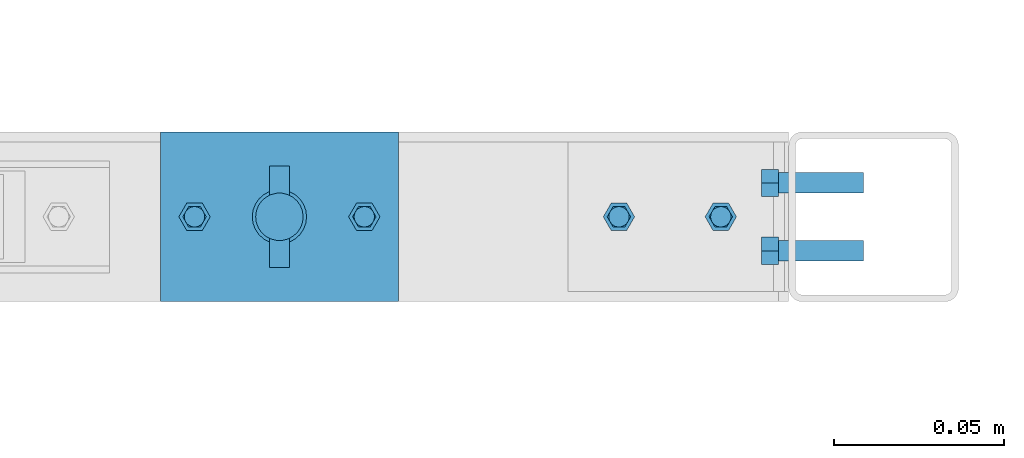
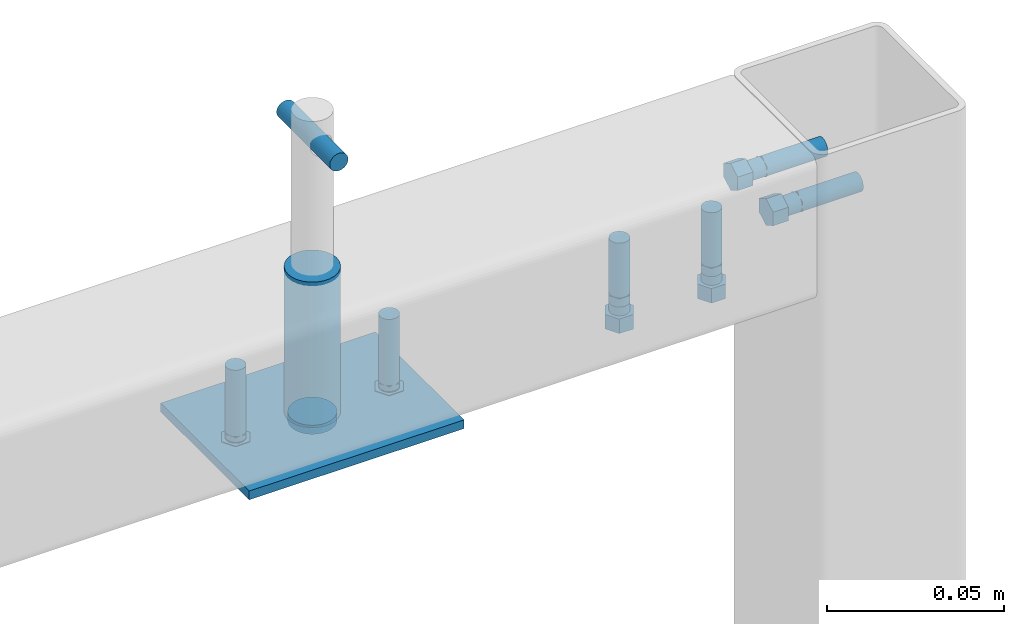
# One storey, part 60 of 91: 9 mechanical fasteners, 2 discrete accessories, 1 element without a shape of its own.
"""IFC2X3 building model written with IfcOpenShell, lengths in millimetres."""

from ifc_helpers import new_model, si_unit, frame, origin_with_axes, origin_2d_with_axis, place, context, subcontext, project, spatial, polyline, circle, outline, extrude, source, transform, mapped, material, type_object, element, aggregate, save


model = new_model("IFC2X3")

# Units and contexts
model_context = context("Model", 3, precision=1e-05, world=origin_with_axes())
body_context = subcontext(model_context, "Body", "Model", "MODEL_VIEW")
ifc_project = project(units=[si_unit("LENGTHUNIT", "METRE", prefix="MILLI"), si_unit("AREAUNIT", "SQUARE_METRE"), si_unit("VOLUMEUNIT", "CUBIC_METRE"), si_unit("MASSUNIT", "GRAM", prefix="KILO"), si_unit("TIMEUNIT", "SECOND"), si_unit("PLANEANGLEUNIT", "RADIAN"), si_unit("SOLIDANGLEUNIT", "STERADIAN"), si_unit("THERMODYNAMICTEMPERATUREUNIT", "DEGREE_CELSIUS"), si_unit("LUMINOUSINTENSITYUNIT", "LUMEN")], contexts=[model_context])

# Site, building, storey
site_placement = place(None, origin_with_axes())
site = spatial("IfcSite", under=ifc_project, at=site_placement, Name="Undefined", CompositionType="ELEMENT")
building_placement = place(site_placement, origin_with_axes())
building = spatial("IfcBuilding", under=site, at=building_placement, Name="Undefined", CompositionType="ELEMENT")
storey_placement = place(building_placement, origin_with_axes())
storey = spatial("IfcBuildingStorey", under=building, at=storey_placement, Name="Undefined", CompositionType="ELEMENT", Elevation=0.0)

# Assembly, mechanical fasteners, discrete accessories
assembly_placement = place(storey_placement, origin_with_axes())
assembly = element("IfcElementAssembly", 1, at=assembly_placement, inside=storey, Name="Sliding Door Beam", AssemblyPlace="NOTDEFINED", PredefinedType="RIGID_FRAME")
ifc_material_1 = material(Name="TEK_11TPIM")
discrete_accessory_type_1 = type_object("IfcDiscreteAccessoryType", Name="Bolt assembly")
shared_shape_1 = source(origin_with_axes(), body_context, "Body", "SweptSolid", [
    extrude(circle(Radius=3.0, at=origin_2d_with_axis()), frame((0.0, 6.10000000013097, 0.0), z_axis=(0.0, 1.0, 0.0), x_axis=(1.0, 0.0, 0.0)), (0.0, 0.0, 1.0), 3.0),
    extrude(circle(Radius=3.0, at=origin_2d_with_axis()), frame((0.0, 8.9, 0.0), z_axis=(0.0, 1.0, 0.0), x_axis=(1.0, 0.0, 0.0)), (0.0, 0.0, 1.0), 2.1),
    extrude(outline(polyline([(4.61880215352, 0.0), (2.30940107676, 4.00000000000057), (-2.30940107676, 4.00000000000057), (-4.61880215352, 0.0), (-2.30940107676, -4.00000000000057), (2.30940107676, -4.00000000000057), (4.61880215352, 0.0)])), frame((0.0, 1.00000000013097, 0.0), z_axis=(0.0, 1.0, 0.0), x_axis=(1.0, 0.0, 0.0)), (0.0, 0.0, 1.0), 5.0),
    extrude(circle(Radius=3.0, at=origin_2d_with_axis()), frame((0.0, 6.00000000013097, 0.0), z_axis=(0.0, 1.0, 0.0), x_axis=(1.0, 0.0, 0.0)), (0.0, 0.0, 1.0), 25.0),
    extrude(circle(Radius=3.0, at=origin_2d_with_axis()), frame((0.0, 11.0, 0.0), z_axis=(0.0, 1.0, 0.0), x_axis=(1.0, 0.0, 0.0)), (0.0, 0.0, 1.0), 0.1),
    extrude(outline(polyline([(3.46410161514, 0.0), (1.73205080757, 3.00000000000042), (-1.73205080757, 3.00000000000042), (-3.46410161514, 0.0), (-1.73205080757, -3.00000000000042), (1.73205080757, -3.00000000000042), (3.46410161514, 0.0)])), frame((0.0, 11.1000000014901, 0.0), z_axis=(0.0, 1.0, 0.0), x_axis=(1.0, 0.0, 0.0)), (0.0, 0.0, 1.0), 0.1),
])
mechanical_fastener_1_placement = place(assembly_placement, frame((-110610.29, 90380.0, 3351.0), z_axis=(0.0, -1.0, 0.0), x_axis=(0.0, 0.0, -1.0)))
mechanical_fastener_1 = element("IfcMechanicalFastener", 2, at=mechanical_fastener_1_placement, type_object=discrete_accessory_type_1, material=ifc_material_1, Name="Bolt assembly", NominalDiameter=6.0, NominalLength=25.0, context=body_context, shape_type="MappedRepresentation", body=[
    mapped(shared_shape_1, transform((0.0, 0.0, 10.0))),
    mapped(shared_shape_1, transform((0.0, 0.0, -10.0))),
])
shared_shape_2 = source(origin_with_axes(), body_context, "Body", "SweptSolid", [
    extrude(circle(Radius=3.0, at=origin_2d_with_axis()), frame((0.0, 0.0, 0.0), z_axis=(0.0, 1.0, 0.0), x_axis=(1.0, 0.0, 0.0)), (0.0, 0.0, 1.0), 3.1),
])
mechanical_fastener_2_placement = place(assembly_placement, frame((-110621.29, 90380.0, 3329.0), z_axis=(0.0, 1.0, 0.0), x_axis=(-1.0, 0.0, 0.0)))
mechanical_fastener_2 = element("IfcMechanicalFastener", 3, at=mechanical_fastener_2_placement, type_object=discrete_accessory_type_1, material=ifc_material_1, Name="Bolt assembly", NominalDiameter=6.0, NominalLength=8.0, context=body_context, shape_type="MappedRepresentation", body=[
    mapped(shared_shape_2, transform((0.0, 0.0, 0.0))),
    mapped(shared_shape_2, transform((30.0, 0.0, 0.0))),
])
shared_shape_3 = source(origin_with_axes(), body_context, "Body", "SweptSolid", [
    extrude(circle(Radius=3.0, at=origin_2d_with_axis()), frame((0.0, 0.1, 0.0), z_axis=(0.0, 1.0, 0.0), x_axis=(1.0, 0.0, 0.0)), (0.0, 0.0, 1.0), 2.0),
    extrude(circle(Radius=3.0, at=origin_2d_with_axis()), frame((0.0, 2.90000000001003, 0.0), z_axis=(0.0, 1.0, 0.0), x_axis=(1.0, 0.0, 0.0)), (0.0, 0.0, 1.0), 3.1),
    extrude(outline(polyline([(4.61880215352, 0.0), (2.30940107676, 4.00000000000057), (-2.30940107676, 4.00000000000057), (-4.61880215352, 0.0), (-2.30940107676, -4.00000000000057), (2.30940107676, -4.00000000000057), (4.61880215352, 0.0)])), frame((0.0, -5.0, 0.0), z_axis=(0.0, 1.0, 0.0), x_axis=(1.0, 0.0, 0.0)), (0.0, 0.0, 1.0), 5.0),
    extrude(circle(Radius=3.0, at=origin_2d_with_axis()), frame((0.0, 0.0, 0.0), z_axis=(0.0, 1.0, 0.0), x_axis=(1.0, 0.0, 0.0)), (0.0, 0.0, 1.0), 25.0),
    extrude(circle(Radius=3.0, at=origin_2d_with_axis()), frame((0.0, 6.00000000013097, 0.0), z_axis=(0.0, 1.0, 0.0), x_axis=(1.0, 0.0, 0.0)), (0.0, 0.0, 1.0), 0.1),
    extrude(outline(polyline([(3.46410161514, 0.0), (1.73205080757, 3.00000000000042), (-1.73205080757, 3.00000000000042), (-3.46410161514, 0.0), (-1.73205080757, -3.00000000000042), (1.73205080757, -3.00000000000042), (3.46410161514, 0.0)])), frame((0.0, 6.10000000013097, 0.0), z_axis=(0.0, 1.0, 0.0), x_axis=(1.0, 0.0, 0.0)), (0.0, 0.0, 1.0), 0.1),
])
mechanical_fastener_3_placement = place(assembly_placement, frame((-110621.29, 90380.0, 3326.0), z_axis=(0.0, 1.0, 0.0), x_axis=(-1.0, 0.0, 0.0)))
mechanical_fastener_3 = element("IfcMechanicalFastener", 4, at=mechanical_fastener_3_placement, type_object=discrete_accessory_type_1, material=ifc_material_1, Name="Bolt assembly", NominalDiameter=6.0, NominalLength=25.0, context=body_context, shape_type="MappedRepresentation", body=[
    mapped(shared_shape_3, transform((0.0, 0.0, 0.0))),
    mapped(shared_shape_3, transform((30.0, 0.0, 0.0))),
])
ifc_material_2 = material(Name="STEEL/250")
discrete_accessory_type_2 = type_object("IfcDiscreteAccessoryType", Name="PLATE")
discrete_accessory_1_placement = place(assembly_placement, frame((-110786.29, 90405.0, 3324.5), z_axis=(0.0, 0.0, 1.0), x_axis=(0.0, -1.0, 0.0)))
discrete_accessory_1 = element("IfcDiscreteAccessory", 5, at=discrete_accessory_1_placement, type_object=discrete_accessory_type_2, material=ifc_material_2, Name="PLATE", ObjectType="PLT3*50", context=body_context, shape_type="SweptSolid", body=[
    extrude(outline(polyline([(0.0, 0.0), (50.0, 0.0), (50.0, 70.0), (0.0, 70.0), (0.0, 0.0)])), frame((0.0, 0.0, -1.5), z_axis=(0.0, 0.0, 1.0), x_axis=(1.0, 0.0, 0.0)), (0.0, 0.0, 1.0), 3.0),
])
ifc_material_3 = material(Name="8.8S")
shared_shape_4 = source(origin_with_axes(), body_context, "Body", "SweptSolid", [
    extrude(circle(Radius=3.0, at=origin_2d_with_axis()), frame((0.0, -1.0, 0.0), z_axis=(0.0, 1.0, 0.0), x_axis=(1.0, 0.0, 0.0)), (0.0, 0.0, 1.0), 3.1),
])
mechanical_fastener_4_placement = place(assembly_placement, frame((-110726.29, 90380.0, 3324.0), z_axis=(0.0, 1.0, 0.0), x_axis=(-1.0, 0.0, 0.0)))
mechanical_fastener_4 = element("IfcMechanicalFastener", 6, at=mechanical_fastener_4_placement, type_object=discrete_accessory_type_1, material=ifc_material_3, Name="Bolt assembly", NominalDiameter=6.0, NominalLength=3.0, context=body_context, shape_type="MappedRepresentation", body=[
    mapped(shared_shape_4, transform((0.0, 0.0, 0.0))),
])
mechanical_fastener_5_placement = place(assembly_placement, frame((-110776.29, 90380.0, 3324.0), z_axis=(0.0, -1.0, 0.0), x_axis=(1.0, 0.0, 0.0)))
mechanical_fastener_5 = element("IfcMechanicalFastener", 7, at=mechanical_fastener_5_placement, type_object=discrete_accessory_type_1, material=ifc_material_3, Name="Bolt assembly", NominalDiameter=6.0, NominalLength=3.0, context=body_context, shape_type="MappedRepresentation", body=[
    mapped(shared_shape_4, transform((0.0, 0.0, 0.0))),
])
shared_shape_5 = source(origin_with_axes(), body_context, "Body", "SweptSolid", [
    extrude(circle(Radius=7.0, at=origin_2d_with_axis()), frame((0.0, -1.0, 0.0), z_axis=(0.0, 1.0, 0.0), x_axis=(1.0, 0.0, 0.0)), (0.0, 0.0, 1.0), 3.1),
])
mechanical_fastener_6_placement = place(assembly_placement, frame((-110751.29, 90380.0, 3324.0), z_axis=(0.0, -1.0, 0.0), x_axis=(1.0, 0.0, 0.0)))
mechanical_fastener_6 = element("IfcMechanicalFastener", 8, at=mechanical_fastener_6_placement, type_object=discrete_accessory_type_1, material=ifc_material_3, Name="Bolt assembly", NominalDiameter=12.0, NominalLength=3.0, context=body_context, shape_type="MappedRepresentation", body=[
    mapped(shared_shape_5, transform((0.0, 0.0, 0.0))),
])
shared_shape_6 = source(origin_with_axes(), body_context, "Body", "SweptSolid", [
    extrude(circle(Radius=3.0, at=origin_2d_with_axis()), frame((0.0, 0.0, 0.0), z_axis=(0.0, 1.0, 0.0), x_axis=(1.0, 0.0, 0.0)), (0.0, 0.0, 1.0), 2.1),
    extrude(outline(polyline([(4.61880215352, 0.0), (2.30940107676, 4.00000000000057), (-2.30940107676, 4.00000000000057), (-4.61880215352, 0.0), (-2.30940107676, -4.00000000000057), (2.30940107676, -4.00000000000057), (4.61880215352, 0.0)])), frame((0.0, -5.0, 0.0), z_axis=(0.0, 1.0, 0.0), x_axis=(1.0, 0.0, 0.0)), (0.0, 0.0, 1.0), 5.0),
    extrude(circle(Radius=3.0, at=origin_2d_with_axis()), frame((0.0, 0.0, 0.0), z_axis=(0.0, 1.0, 0.0), x_axis=(1.0, 0.0, 0.0)), (0.0, 0.0, 1.0), 25.0),
    extrude(circle(Radius=3.0, at=origin_2d_with_axis()), frame((0.0, 2.00000000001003, 0.0), z_axis=(0.0, 1.0, 0.0), x_axis=(1.0, 0.0, 0.0)), (0.0, 0.0, 1.0), 0.1),
    extrude(outline(polyline([(3.46410161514, 0.0), (1.73205080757, 3.00000000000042), (-1.73205080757, 3.00000000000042), (-3.46410161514, 0.0), (-1.73205080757, -3.00000000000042), (1.73205080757, -3.00000000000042), (3.46410161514, 0.0)])), frame((0.0, 2.10000000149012, 0.0), z_axis=(0.0, 1.0, 0.0), x_axis=(1.0, 0.0, 0.0)), (0.0, 0.0, 1.0), 0.1),
])
mechanical_fastener_7_placement = place(assembly_placement, frame((-110726.29, 90380.0, 3326.0), z_axis=(0.0, 1.0, 0.0), x_axis=(-1.0, 0.0, 0.0)))
mechanical_fastener_7 = element("IfcMechanicalFastener", 9, at=mechanical_fastener_7_placement, type_object=discrete_accessory_type_1, material=ifc_material_1, Name="Bolt assembly", NominalDiameter=6.0, NominalLength=25.0, context=body_context, shape_type="MappedRepresentation", body=[
    mapped(shared_shape_6, transform((0.0, 0.0, 0.0))),
])
mechanical_fastener_8_placement = place(assembly_placement, frame((-110776.29, 90380.0, 3326.0), z_axis=(0.0, -1.0, 0.0), x_axis=(1.0, 0.0, 0.0)))
mechanical_fastener_8 = element("IfcMechanicalFastener", 10, at=mechanical_fastener_8_placement, type_object=discrete_accessory_type_1, material=ifc_material_1, Name="Bolt assembly", NominalDiameter=6.0, NominalLength=25.0, context=body_context, shape_type="MappedRepresentation", body=[
    mapped(shared_shape_6, transform((0.0, 0.0, 0.0))),
])
shared_shape_7 = source(origin_with_axes(), body_context, "Body", "SweptSolid", [
    extrude(circle(Radius=8.0, at=origin_2d_with_axis()), frame((0.0, 0.0, 0.0), z_axis=(0.0, 1.0, 0.0), x_axis=(1.0, 0.0, 0.0)), (0.0, 0.0, 1.0), 50.1),
])
mechanical_fastener_9_placement = place(assembly_placement, frame((-110751.29, 90380.0, 3326.0), z_axis=(0.0, 1.0, 0.0), x_axis=(-1.0, 0.0, 0.0)))
mechanical_fastener_9 = element("IfcMechanicalFastener", 11, at=mechanical_fastener_9_placement, type_object=discrete_accessory_type_1, material=ifc_material_3, Name="Bolt assembly", NominalDiameter=10.0, NominalLength=50.0, context=body_context, shape_type="MappedRepresentation", body=[
    mapped(shared_shape_7, transform((0.0, 0.0, 0.0))),
])
discrete_accessory_type_3 = type_object("IfcDiscreteAccessoryType", Name="SPRING PIN")
discrete_accessory_2_placement = place(assembly_placement, frame((-110751.29, 90365.0, 3421.0), z_axis=(1.0, 0.0, 0.0), x_axis=(0.0, 1.0, 0.0)))
discrete_accessory_2 = element("IfcDiscreteAccessory", 12, at=discrete_accessory_2_placement, type_object=discrete_accessory_type_3, material=ifc_material_2, Name="SPRING PIN", ObjectType="D6", context=body_context, shape_type="SweptSolid", body=[
    extrude(circle(Radius=3.0, at=origin_2d_with_axis()), frame((30.0, 0.0, 0.0), z_axis=(-1.0, 0.0, 0.0), x_axis=(0.0, -1.0, 0.0)), (0.0, 0.0, 1.0), 30.0),
])
aggregate(assembly, [mechanical_fastener_1, mechanical_fastener_2, mechanical_fastener_3, mechanical_fastener_4, mechanical_fastener_5, mechanical_fastener_6, mechanical_fastener_7, mechanical_fastener_8, mechanical_fastener_9, discrete_accessory_2, discrete_accessory_1])

save(model, "model.ifc")
